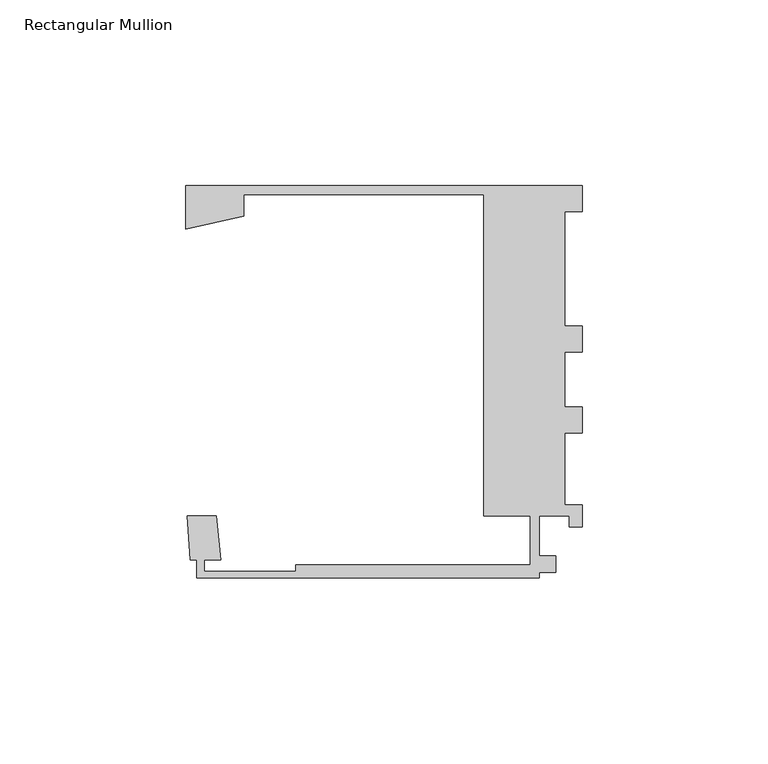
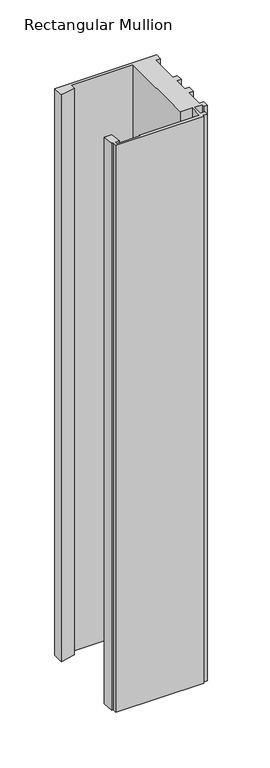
"""IFC4 building model written with IfcOpenShell, lengths in millimetres: member geometry, Rectangular Mullion : Danpal_Airpt_End-Mullion_B1."""

from ifc_helpers import new_model, si_unit, frame, origin, place, context, project, spatial, polyline, outline, extrude, source, transform, mapped, element, save


def rectangular_mullion_8ebac9a3(model_context):
    return source(origin(), model_context, "Body", "SweptSolid", [
        extrude(outline(polyline([(-11.6055875, -92.6094337), (-103.8999976, -92.6094337), (-103.8999976, -87.7698451), (-105.6776694, -87.7698451), (-106.4274982, -75.8596534), (-98.5693208, -75.8596534), (-97.4384397, -87.7698451), (-101.8999976, -87.7698451), (-101.8999976, -90.8094336), (-77.1531178, -90.8094336), (-77.1531178, -89.1094336), (-14.1055875, -89.1094336), (-14.1055875, -75.8596534), (-26.6209612, -75.8596534), (-26.6209612, 10.6837558), (-91.2900275, 10.6837558), (-91.2900275, 4.9090081), (-106.8892292, 1.4378016), (-106.8892292, 13.1837558), (0.0, 13.1837558), (0.0, 6.1837558), (-4.8, 6.1837558), (-4.8, -24.6595054), (0.0, -24.6595054), (0.0, -31.6595227), (-4.8, -31.6595227), (-4.8, -46.4688518), (0.0, -46.4688518), (0.0, -53.4688518), (-4.8, -53.4688518), (-4.8, -72.9077707), (0.0, -72.9077707), (0.0, -78.8594337), (-3.5072447, -78.8594337), (-3.5072447, -75.8594337), (-11.6055875, -75.8594337), (-11.6055875, -86.6049249), (-7.1518595, -86.6049249), (-7.1518595, -91.1094337), (-11.6055875, -91.1094337), (-11.6055875, -92.6094337)])), frame((0.0, 0.0, -630.0), z_axis=(0.0, 0.0, 1.0), x_axis=(1.0, 0.0, 0.0)), (0.0, 0.0, 1.0), 630.0),
    ])


if __name__ == "__main__":
    model = new_model("IFC4")
    model_context = context("Model", 3, world=origin())
    ifc_project = project(units=[si_unit("LENGTHUNIT", "METRE", prefix="MILLI")], contexts=[model_context])
    site = spatial("IfcSite", under=ifc_project)
    building = spatial("IfcBuilding", under=site)
    placement = place(None, origin())
    rectangular_mullion_shape = rectangular_mullion_8ebac9a3(model_context)
    element("IfcMember", 1, ObjectType="Rectangular Mullion : Danpal_Airpt_End-Mullion_B1", at=placement, inside=building, context=model_context, shape_type="MappedRepresentation", body=[
        mapped(rectangular_mullion_shape, transform((0.0, 0.0, 0.0), x_axis=(1.0, 0.0, 0.0), y_axis=(0.0, 1.0, 0.0), z_axis=(0.0, 0.0, 1.0))),
    ])
    save(model, "model.ifc")
